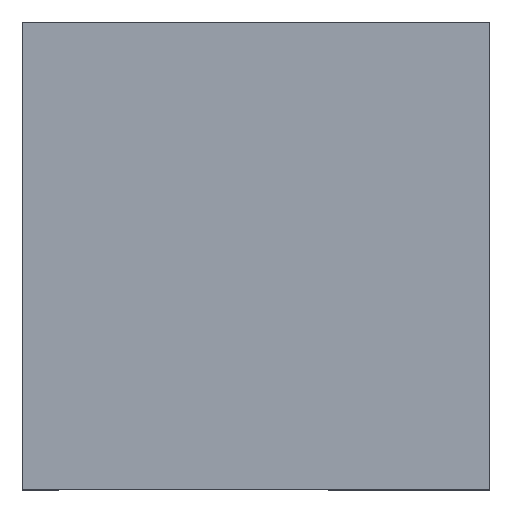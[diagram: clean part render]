
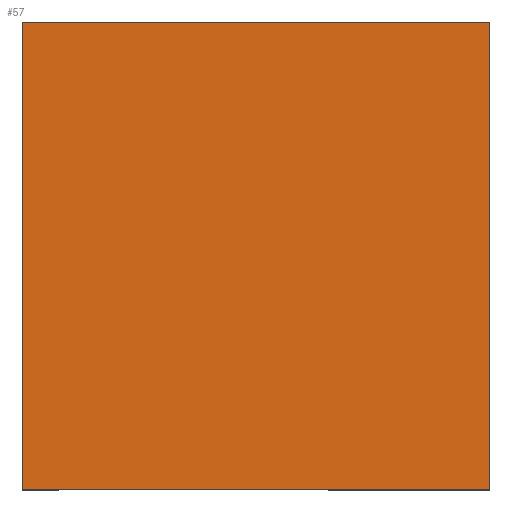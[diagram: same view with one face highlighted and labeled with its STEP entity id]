
A CAD part, top view. The second image highlights one B-rep face of the part: STEP entity #57.
In plain terms, the highlighted planar face has unit normal (0, 0, 1).
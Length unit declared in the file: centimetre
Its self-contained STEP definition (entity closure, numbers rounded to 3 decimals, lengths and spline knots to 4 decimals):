
#34 = CARTESIAN_POINT ( 'NONE',  ( 0., 1000., 1000. ) ) ;
#50 = EDGE_LOOP ( 'NONE', ( #868, #680, #1028, #436 ) ) ;
#57 = ADVANCED_FACE ( 'NONE', ( #369 ), #687, .T. ) ;
#94 = DIRECTION ( 'NONE',  ( -1., 0., 0. ) ) ;
#187 = EDGE_CURVE ( 'NONE', #761, #949, #887, .T. ) ;
#191 = CARTESIAN_POINT ( 'NONE',  ( 0., 0., 1000. ) ) ;
#206 = LINE ( 'NONE', #946, #310 ) ;
#213 = DIRECTION ( 'NONE',  ( 1., 0., 0. ) ) ;
#228 = VERTEX_POINT ( 'NONE', #34 ) ;
#302 = VERTEX_POINT ( 'NONE', #191 ) ;
#310 = VECTOR ( 'NONE', #213, 100. ) ;
#318 = DIRECTION ( 'NONE',  ( 0., 1., 0. ) ) ;
#339 = DIRECTION ( 'NONE',  ( 0., -1., 0. ) ) ;
#369 = FACE_OUTER_BOUND ( 'NONE', #50, .T. ) ;
#436 = ORIENTED_EDGE ( 'NONE', *, *, #913, .T. ) ;
#446 = EDGE_CURVE ( 'NONE', #228, #302, #915, .T. ) ;
#512 = VECTOR ( 'NONE', #339, 100. ) ;
#531 = DIRECTION ( 'NONE',  ( 1., 0., 0. ) ) ;
#662 = VECTOR ( 'NONE', #318, 100. ) ;
#680 = ORIENTED_EDGE ( 'NONE', *, *, #704, .T. ) ;
#687 = PLANE ( 'NONE',  #899 ) ;
#704 = EDGE_CURVE ( 'NONE', #302, #761, #206, .T. ) ;
#738 = LINE ( 'NONE', #827, #850 ) ;
#761 = VERTEX_POINT ( 'NONE', #797 ) ;
#797 = CARTESIAN_POINT ( 'NONE',  ( 1000., 0., 1000. ) ) ;
#827 = CARTESIAN_POINT ( 'NONE',  ( 0., 1000., 1000. ) ) ;
#838 = CARTESIAN_POINT ( 'NONE',  ( 0., 1000., 1000. ) ) ;
#850 = VECTOR ( 'NONE', #94, 100. ) ;
#868 = ORIENTED_EDGE ( 'NONE', *, *, #446, .T. ) ;
#871 = CARTESIAN_POINT ( 'NONE',  ( 0., 0., 1000. ) ) ;
#887 = LINE ( 'NONE', #976, #662 ) ;
#899 = AXIS2_PLACEMENT_3D ( 'NONE', #871, #1015, #531 ) ;
#911 = CARTESIAN_POINT ( 'NONE',  ( 1000., 1000., 1000. ) ) ;
#913 = EDGE_CURVE ( 'NONE', #949, #228, #738, .T. ) ;
#915 = LINE ( 'NONE', #838, #512 ) ;
#946 = CARTESIAN_POINT ( 'NONE',  ( 0., 0., 1000. ) ) ;
#949 = VERTEX_POINT ( 'NONE', #911 ) ;
#976 = CARTESIAN_POINT ( 'NONE',  ( 1000., 1000., 1000. ) ) ;
#1015 = DIRECTION ( 'NONE',  ( 0., 0., 1. ) ) ;
#1028 = ORIENTED_EDGE ( 'NONE', *, *, #187, .T. ) ;
